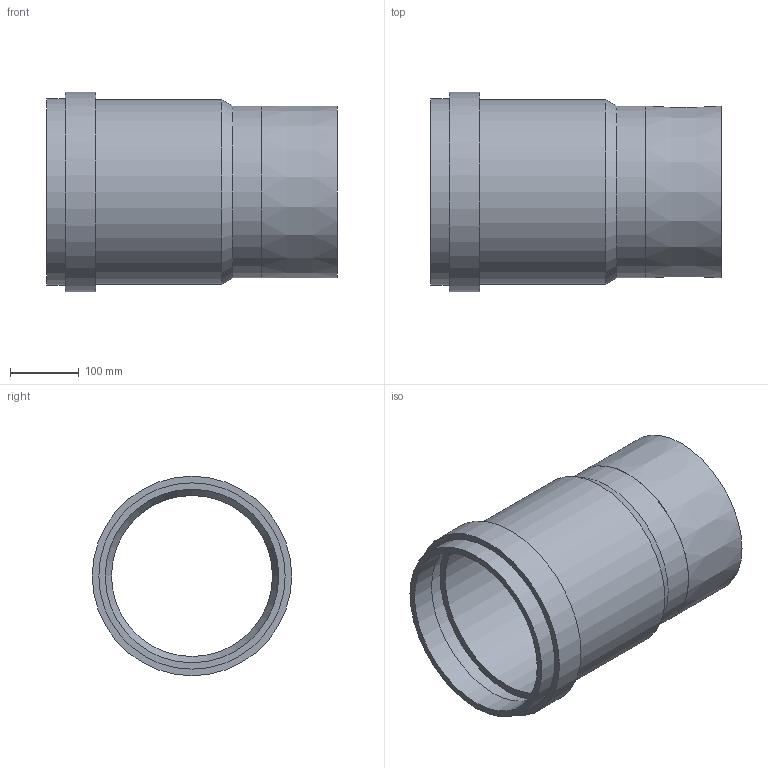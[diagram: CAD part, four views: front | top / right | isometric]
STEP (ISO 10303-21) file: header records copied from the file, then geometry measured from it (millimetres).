
FILE_DESCRIPTION(/* description */ (''),/* implementation_level */ '2;1');
FILE_NAME(/* name */ 'Z:\Geberit\Export\NewStep\PE Muffe_ART\stp\371700.stp',/* time_stamp */ '2014-04-03T16:31:07+02:00',/* author */ ('bruh'),/* organization */ (''),/* preprocessor_version */ 'ST-DEVELOPER v15.2',/* originating_system */ 'Autodesk Inventor 2014',/* authorisation */ '');
FILE_SCHEMA (('AUTOMOTIVE_DESIGN { 1 0 10303 214 3 1 1 }'));
Length unit declared in the file: millimetre
Products named in the file (2): 889.173.16.0.02; 371700
Bounding box: 423 x 290.5 x 290.5 mm (x, y, z)
Volume: 2870553.9 mm3; surface area: 732695 mm2
Topology: 1 solids, 1 shells, 18 faces, 31 edges, 20 vertices
Faces by surface type: cylinder 8, plane 7, cone 3
Full cylindrical faces by diameter (mm): 234.4 x1, 250 x1, 252.7 x2, 268.3 x1, 271.3 x1, 274.1 x1, 290.5 x1
Entity records: 408 total; most frequent: DIRECTION 78, CARTESIAN_POINT 57, AXIS2_PLACEMENT_3D 39, EDGE_LOOP 36, ORIENTED_EDGE 36, FACE_BOUND 21, CIRCLE 18, VERTEX_POINT 18
